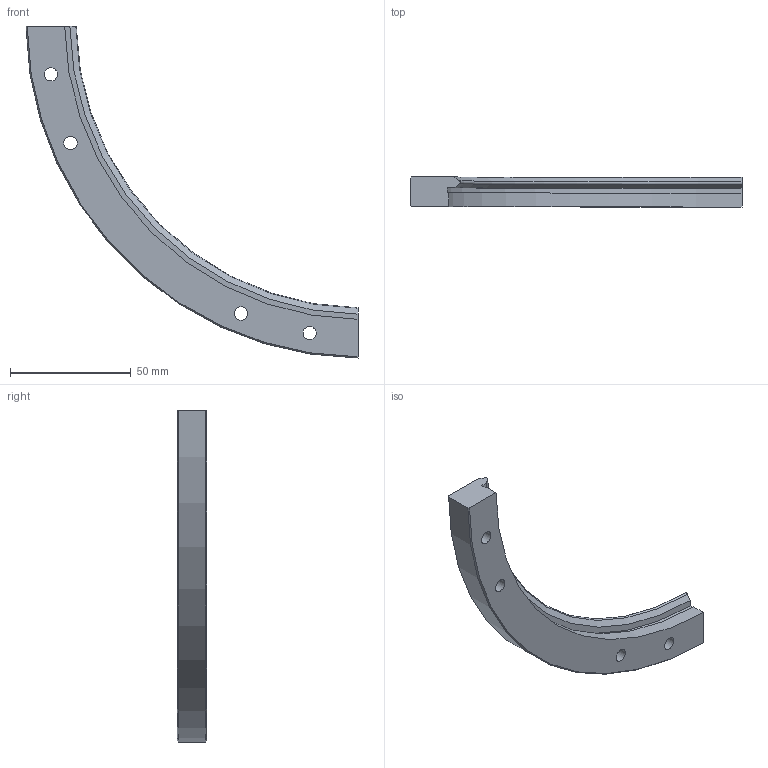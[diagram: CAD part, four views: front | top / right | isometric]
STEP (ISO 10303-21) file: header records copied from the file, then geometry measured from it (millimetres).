
FILE_DESCRIPTION( ( 'STEP AP203' ), '1' );
FILE_NAME( 'p:/temp/worker_29/temp/exporttempdir_2736_506_c52T9/format_0/TRIS 278 R90 .stp', '2021-09-17T07:47:24', ( 'License CC BY-ND 4.0' ), ( 'CADENAS' ), ' ', 'PARTsolutions', ' ' );
FILE_SCHEMA( ( 'CONFIG_CONTROL_DESIGN' ) );
Length unit declared in the file: millimetre
Products named in the file (1): _TRIS 278 R90  
Bounding box: 137.49 x 12.25 x 137.49 mm (x, y, z)
Volume: 40276.3 mm3; surface area: 14208 mm2
Topology: 1 solids, 1 shells, 26 faces, 60 edges, 40 vertices
Faces by surface type: cylinder 11, plane 10, cone 4, torus 1
Full cylindrical faces by diameter (mm): 5.5 x4, 10 x4
Entity records: 794 total; most frequent: CARTESIAN_POINT 161, DIRECTION 124, ORIENTED_EDGE 104, AXIS2_PLACEMENT_3D 55, EDGE_CURVE 52, EDGE_LOOP 46, VERTEX_POINT 40, FACE_OUTER_BOUND 34
